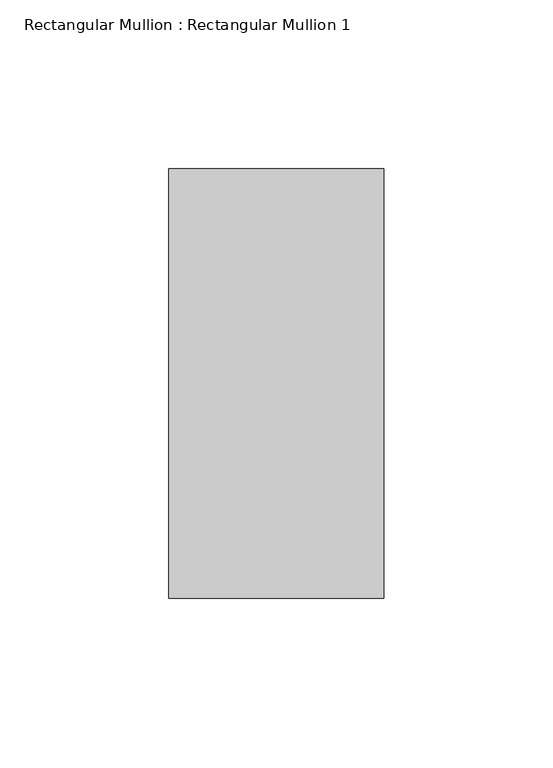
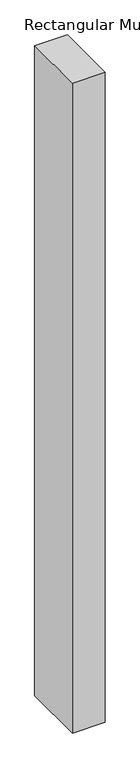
"""IFC4 building model written with IfcOpenShell, lengths in millimetres: member geometry, Rectangular Mullion : Rectangular Mullion 1."""

from ifc_helpers import new_model, si_unit, frame, origin, place, context, project, spatial, polyline, outline, extrude, source, transform, mapped, element, save


def rectangular_mullion_rectangular_mullion_1_3b2aa3a4(model_context):
    return source(origin(), model_context, "Body", "SweptSolid", [
        extrude(outline(polyline([(0.0, 63.5), (0.0, -63.5), (-63.5, -63.5), (-63.5, 63.5), (0.0, 63.5)])), frame((0.0, 0.0, -1336.4999998), z_axis=(0.0, 0.0, 1.0), x_axis=(1.0, 0.0, 0.0)), (0.0, 0.0, 1.0), 1336.4999998),
    ])


if __name__ == "__main__":
    model = new_model("IFC4")
    model_context = context("Model", 3, world=origin())
    ifc_project = project(units=[si_unit("LENGTHUNIT", "METRE", prefix="MILLI")], contexts=[model_context])
    site = spatial("IfcSite", under=ifc_project)
    building = spatial("IfcBuilding", under=site)
    placement = place(None, origin())
    rectangular_mullion_rectangular_mullion_1_shape = rectangular_mullion_rectangular_mullion_1_3b2aa3a4(model_context)
    element("IfcMember", 1, ObjectType="Rectangular Mullion : Rectangular Mullion 1", at=placement, inside=building, context=model_context, shape_type="MappedRepresentation", body=[
        mapped(rectangular_mullion_rectangular_mullion_1_shape, transform((0.0, 0.0, 0.0), x_axis=(1.0, 0.0, 0.0), y_axis=(0.0, 1.0, 0.0), z_axis=(0.0, 0.0, 1.0))),
    ])
    save(model, "model.ifc")
